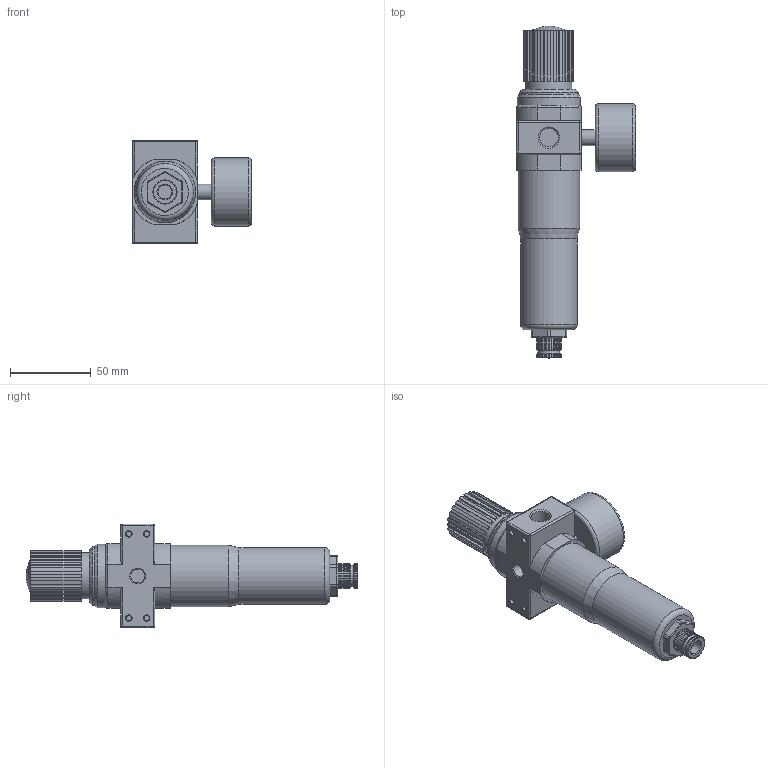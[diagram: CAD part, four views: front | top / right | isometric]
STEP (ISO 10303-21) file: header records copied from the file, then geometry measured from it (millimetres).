
FILE_DESCRIPTION(/* description */ ('STEP AP214'),/* implementation_level */ '2;1');
FILE_NAME(/* name */ '90-FRC-14-xx-05-aa.stp',/* time_stamp */ '2026-01-20T07:45:11+01:00',/* author */ ('Tschernatsch'),/* organization */ ('CADENAS'),/* preprocessor_version */ 'ST-DEVELOPER v20',/* originating_system */ 'Autodesk Inventor 2024',/* authorisation */ ' ');
FILE_SCHEMA (('AUTOMOTIVE_DESIGN { 1 0 10303 214 3 1 1 }'));
Length unit declared in the file: millimetre
Products named in the file (1): LFR-G1/4-MINI-H_
Bounding box: 73.5 x 205 x 64 mm (x, y, z)
Volume: 252748.3 mm3; surface area: 37827.1 mm2
Topology: 1 solids, 2 shells, 391 faces, 1063 edges, 683 vertices
Faces by surface type: plane 197, cylinder 160, torus 14, cone 11, sphere 8, bspline 1
Full cylindrical faces by diameter (mm): 3.242 x4, 8.566 x3, 9.728 x1, 11.445 x2, 28.5 x1, 35 x1, 36 x1, 38 x1, 39 x1, 42 x1
Entity records: 12769 total; most frequent: CARTESIAN_POINT 2731, DIRECTION 2137, ORIENTED_EDGE 2108, EDGE_CURVE 1054, AXIS2_PLACEMENT_3D 788, VERTEX_POINT 683, LINE 561, VECTOR 561
